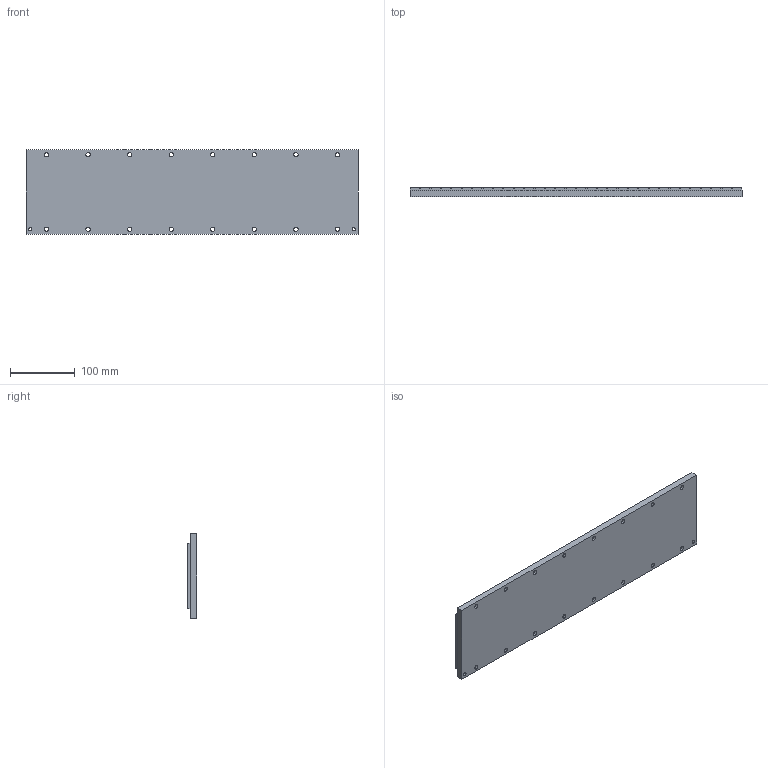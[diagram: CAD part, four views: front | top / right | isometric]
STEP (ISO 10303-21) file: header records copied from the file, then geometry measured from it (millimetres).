
FILE_DESCRIPTION((''),'2;1');
FILE_NAME('MC100-0512-WC','2007-01-14T',('saurabh.singhal'),(''),'PRO/ENGINEER BY PARAMETRIC TECHNOLOGY CORPORATION, 2005450','PRO/ENGINEER BY PARAMETRIC TECHNOLOGY CORPORATION, 2005450','');
FILE_SCHEMA(('CONFIG_CONTROL_DESIGN'));
Length unit declared in the file: millimetre
Products named in the file (1): MC100-0512-WC
Bounding box: 511.3 x 14.4 x 130 mm (x, y, z)
Volume: 849509.3 mm3; surface area: 291813 mm2
Topology: 1 solids, 1 shells, 258 faces, 624 edges, 416 vertices
Faces by surface type: plane 190, cylinder 68
Entity records: 7618 total; most frequent: CARTESIAN_POINT 1298, DIRECTION 1276, ORIENTED_EDGE 1248, EDGE_CURVE 624, VECTOR 488, LINE 488, VERTEX_POINT 416, AXIS2_PLACEMENT_3D 394
